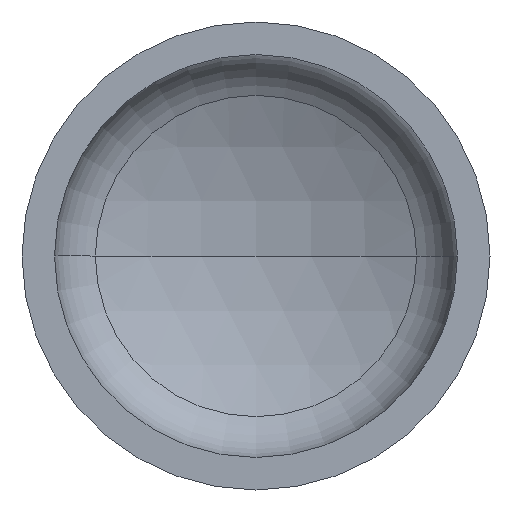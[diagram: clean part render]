
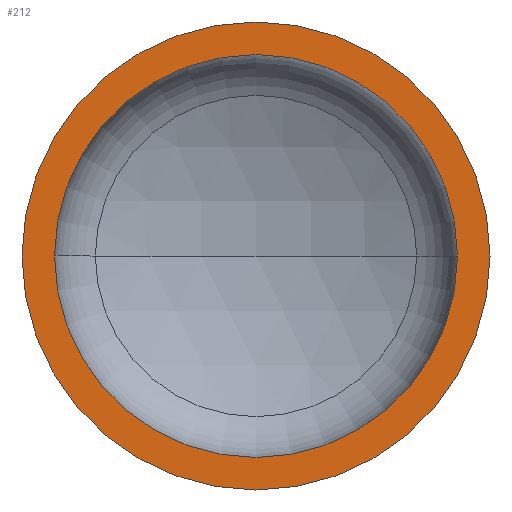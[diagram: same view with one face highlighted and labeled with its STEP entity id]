
A CAD part, front view. The second image highlights one B-rep face of the part: STEP entity #212.
In plain terms, the highlighted planar face has unit normal (0, -1, 0).
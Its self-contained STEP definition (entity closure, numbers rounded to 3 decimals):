
#1 = FACE_OUTER_BOUND ( 'NONE', #5, .T. ) ;
#5 = EDGE_LOOP ( 'NONE', ( #130, #160 ) ) ;
#8 = DIRECTION ( 'NONE',  ( 0., 1., 0. ) ) ;
#12 = ORIENTED_EDGE ( 'NONE', *, *, #103, .F. ) ;
#38 = AXIS2_PLACEMENT_3D ( 'NONE', #104, #114, #151 ) ;
#39 = CARTESIAN_POINT ( 'NONE',  ( 0., 0., 0. ) ) ;
#49 = AXIS2_PLACEMENT_3D ( 'NONE', #360, #8, #202 ) ;
#54 = VERTEX_POINT ( 'NONE', #361 ) ;
#63 = AXIS2_PLACEMENT_3D ( 'NONE', #199, #200, #295 ) ;
#65 = VERTEX_POINT ( 'NONE', #274 ) ;
#66 = AXIS2_PLACEMENT_3D ( 'NONE', #301, #287, #283 ) ;
#79 = ORIENTED_EDGE ( 'NONE', *, *, #399, .F. ) ;
#84 = EDGE_LOOP ( 'NONE', ( #12, #79 ) ) ;
#101 = EDGE_CURVE ( 'NONE', #65, #54, #365, .T. ) ;
#103 = EDGE_CURVE ( 'NONE', #174, #112, #235, .T. ) ;
#104 = CARTESIAN_POINT ( 'NONE',  ( 0., 0., 0. ) ) ;
#107 = DIRECTION ( 'NONE',  ( 1., 0., 0. ) ) ;
#112 = VERTEX_POINT ( 'NONE', #208 ) ;
#114 = DIRECTION ( 'NONE',  ( 0., -1., 0. ) ) ;
#130 = ORIENTED_EDGE ( 'NONE', *, *, #343, .T. ) ;
#151 = DIRECTION ( 'NONE',  ( 1., 0., 0. ) ) ;
#160 = ORIENTED_EDGE ( 'NONE', *, *, #101, .T. ) ;
#174 = VERTEX_POINT ( 'NONE', #302 ) ;
#184 = PLANE ( 'NONE',  #49 ) ;
#199 = CARTESIAN_POINT ( 'NONE',  ( 0., 0., 0. ) ) ;
#200 = DIRECTION ( 'NONE',  ( 0., -1., 0. ) ) ;
#202 = DIRECTION ( 'NONE',  ( -1., 0., 0. ) ) ;
#208 = CARTESIAN_POINT ( 'NONE',  ( -732., 0., 0. ) ) ;
#212 = ADVANCED_FACE ( 'NONE', ( #408, #1 ), #184, .F. ) ;
#235 = CIRCLE ( 'NONE', #63, 732. ) ;
#239 = CIRCLE ( 'NONE', #271, 732. ) ;
#271 = AXIS2_PLACEMENT_3D ( 'NONE', #39, #281, #107 ) ;
#274 = CARTESIAN_POINT ( 'NONE',  ( -850., 0., 0. ) ) ;
#281 = DIRECTION ( 'NONE',  ( 0., -1., 0. ) ) ;
#283 = DIRECTION ( 'NONE',  ( 1., 0., 0. ) ) ;
#287 = DIRECTION ( 'NONE',  ( 0., -1., 0. ) ) ;
#295 = DIRECTION ( 'NONE',  ( 1., 0., 0. ) ) ;
#301 = CARTESIAN_POINT ( 'NONE',  ( 0., 0., 0. ) ) ;
#302 = CARTESIAN_POINT ( 'NONE',  ( 732., 0., 0. ) ) ;
#322 = CIRCLE ( 'NONE', #38, 850. ) ;
#343 = EDGE_CURVE ( 'NONE', #54, #65, #322, .T. ) ;
#360 = CARTESIAN_POINT ( 'NONE',  ( -850., 0., 0. ) ) ;
#361 = CARTESIAN_POINT ( 'NONE',  ( 850., 0., 0. ) ) ;
#365 = CIRCLE ( 'NONE', #66, 850. ) ;
#399 = EDGE_CURVE ( 'NONE', #112, #174, #239, .T. ) ;
#408 = FACE_BOUND ( 'NONE', #84, .T. ) ;
